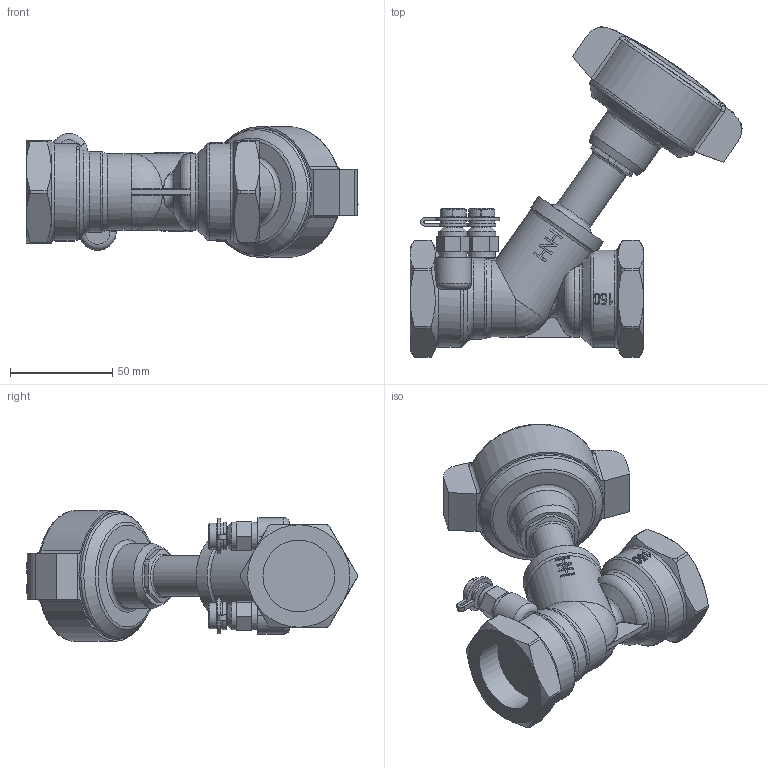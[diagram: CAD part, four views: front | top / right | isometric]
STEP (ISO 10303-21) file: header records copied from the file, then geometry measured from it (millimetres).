
FILE_DESCRIPTION((''),'2;1');
FILE_NAME('P:\Fastrack\53972_CRANE 3D\Workspace\HATTERSLEY\Fig-1732_1 1-4\Fig-1732_1 1-4in.stp','2011-03-07T14:51:31',('btaylor'),(''),'Autodesk Inventor 2008','Autodesk Inventor 2008','');
FILE_SCHEMA(('AUTOMOTIVE_DESIGN { 1 0 10303 214 1 1 1 1 }'));
Length unit declared in the file: millimetre
Products named in the file (1): Fig-1732_1 1-4in
Bounding box: 162.12 x 161.37 x 63.85 mm (x, y, z)
Volume: 330387.1 mm3; surface area: 49789.6 mm2
Topology: 1 solids, 1 shells, 753 faces, 1933 edges, 1245 vertices
Faces by surface type: plane 350, bspline 235, cylinder 118, cone 27, torus 21, sphere 2
Full cylindrical faces by diameter (mm): 7.4 x2, 11 x2, 12.7 x2, 13.7 x2, 20 x1, 31.5 x1, 38.8 x1, 47.4 x1, 61.958 x1
Entity records: 65540 total; most frequent: CARTESIAN_POINT 48290, ORIENTED_EDGE 3774, DIRECTION 2671, EDGE_CURVE 1887, VERTEX_POINT 1234, AXIS2_PLACEMENT_3D 891, VECTOR 889, LINE 889
